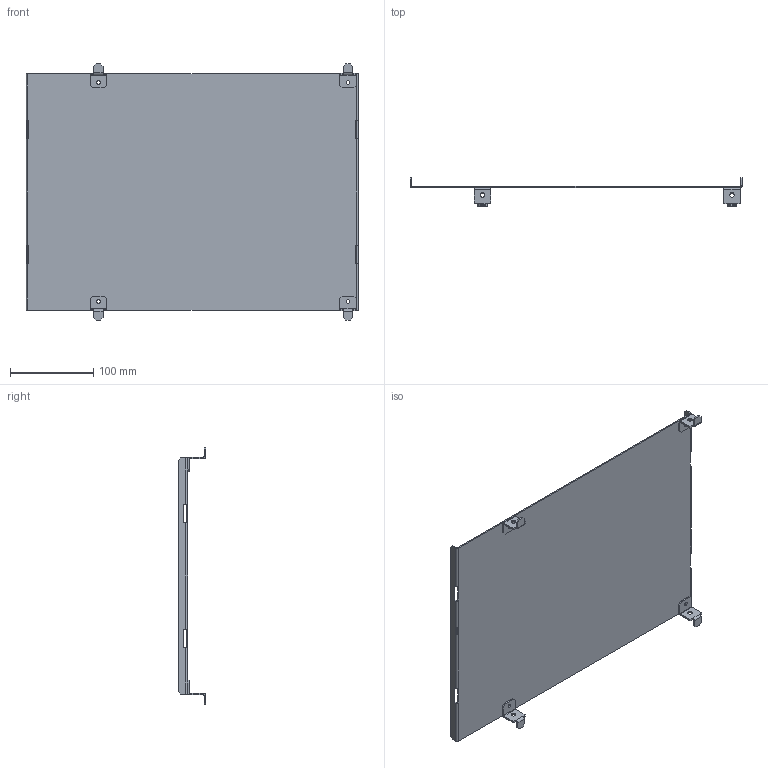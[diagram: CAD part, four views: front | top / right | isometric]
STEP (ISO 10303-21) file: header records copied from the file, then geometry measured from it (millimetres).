
FILE_DESCRIPTION(('CAx-IF Rec.Pracs.---Model Styling and Organization---1.2---2011-12-15','CAx-IF Rec.Pracs.---Geometric and Assembly Validation Properties---4.1---2014-06-16','CAx-IF Rec.Pracs.---PMI Polyline Presentation---2.0---2013-05-24'),'2;1');
FILE_NAME('R5SWM44.stp','2021-05-06T03:09:19+03:00',(''),(''),'STEP Interface 4.4 by CT CoreTechnologie','3D_Evolution4.4 by CT CoreTechnologie','');
FILE_SCHEMA(('AUTOMOTIVE_DESIGN { 1 0 10303 214 1 1 1 1 }'));
Length unit declared in the file: millimetre
Products named in the file (3): R5SWM44; RB.0520.00.00.0; RB.0535.00.00.0_-00 400å400
Assembly tree (5 placements, depth 2):
  R5SWM44
    RB.0520.00.00.0  x4
    RB.0535.00.00.0_-00 400å400
Bounding box: 399 x 33.5 x 308 mm (x, y, z)
Surface area: 246044.5 mm2 (no closed solid volume)
Topology: 0 solids, 5 shells, 176 faces, 534 edges, 360 vertices
Faces by surface type: plane 120, cylinder 56
Entity records: 3504 total; most frequent: CARTESIAN_POINT 590, ORIENTED_EDGE 588, DIRECTION 566, EDGE_CURVE 294, VECTOR 230, LINE 230, VERTEX_POINT 192, AXIS2_PLACEMENT_3D 168
